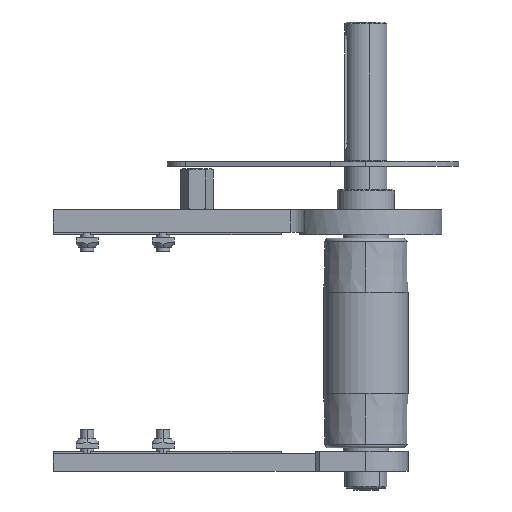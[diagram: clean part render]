
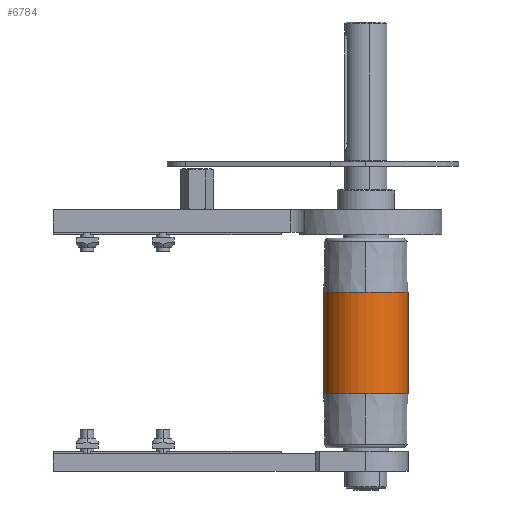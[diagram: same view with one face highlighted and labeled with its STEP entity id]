
A CAD part, front view. The second image highlights one B-rep face of the part: STEP entity #6784.
In plain terms, the highlighted cylindrical face has radius 25 mm (diameter 50 mm), a partial arc.
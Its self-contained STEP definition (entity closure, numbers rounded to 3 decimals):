
#630 = CARTESIAN_POINT ( 'NONE',  ( -25., 0., 30. ) ) ;
#667 = VECTOR ( 'NONE', #9824, 1000. ) ;
#712 = AXIS2_PLACEMENT_3D ( 'NONE', #11941, #8886, #14930 ) ;
#810 = CARTESIAN_POINT ( 'NONE',  ( 0., -25., 30. ) ) ;
#1588 = EDGE_LOOP ( 'NONE', ( #6610, #5626, #4180, #11662, #11616, #2194 ) ) ;
#1848 = CARTESIAN_POINT ( 'NONE',  ( 0., 0., 30. ) ) ;
#1934 = CARTESIAN_POINT ( 'NONE',  ( 0., -25., -30. ) ) ;
#2002 = LINE ( 'NONE', #15670, #15931 ) ;
#2194 = ORIENTED_EDGE ( 'NONE', *, *, #11890, .F. ) ;
#2218 = CYLINDRICAL_SURFACE ( 'NONE', #12473, 25. ) ;
#2889 = CARTESIAN_POINT ( 'NONE',  ( 0., 0., 30. ) ) ;
#3170 = VERTEX_POINT ( 'NONE', #810 ) ;
#3359 = EDGE_CURVE ( 'NONE', #13905, #12829, #8194, .T. ) ;
#3830 = CARTESIAN_POINT ( 'NONE',  ( -25., 0., 60. ) ) ;
#4180 = ORIENTED_EDGE ( 'NONE', *, *, #5994, .T. ) ;
#4954 = AXIS2_PLACEMENT_3D ( 'NONE', #2889, #16077, #5824 ) ;
#5626 = ORIENTED_EDGE ( 'NONE', *, *, #7539, .T. ) ;
#5824 = DIRECTION ( 'NONE',  ( 0., 1., 0. ) ) ;
#5994 = EDGE_CURVE ( 'NONE', #11130, #12829, #6809, .T. ) ;
#6056 = CIRCLE ( 'NONE', #712, 25. ) ;
#6428 = DIRECTION ( 'NONE',  ( 1., 0., 0. ) ) ;
#6594 = AXIS2_PLACEMENT_3D ( 'NONE', #1848, #18067, #9183 ) ;
#6610 = ORIENTED_EDGE ( 'NONE', *, *, #6703, .T. ) ;
#6703 = EDGE_CURVE ( 'NONE', #11925, #3170, #15904, .T. ) ;
#6784 = ADVANCED_FACE ( 'NONE', ( #17686 ), #2218, .T. ) ;
#6809 = LINE ( 'NONE', #3830, #667 ) ;
#7345 = DIRECTION ( 'NONE',  ( 0., 1., 0. ) ) ;
#7458 = DIRECTION ( 'NONE',  ( 0., 0., -1. ) ) ;
#7539 = EDGE_CURVE ( 'NONE', #3170, #11130, #7643, .T. ) ;
#7635 = EDGE_CURVE ( 'NONE', #16345, #13905, #6056, .T. ) ;
#7643 = CIRCLE ( 'NONE', #4954, 25. ) ;
#7753 = DIRECTION ( 'NONE',  ( 0., 0., -1. ) ) ;
#7839 = CARTESIAN_POINT ( 'NONE',  ( -25., 0., -30. ) ) ;
#8194 = CIRCLE ( 'NONE', #11667, 25. ) ;
#8886 = DIRECTION ( 'NONE',  ( 0., 0., -1. ) ) ;
#9183 = DIRECTION ( 'NONE',  ( 0., 1., 0. ) ) ;
#9824 = DIRECTION ( 'NONE',  ( 0., 0., -1. ) ) ;
#10228 = CARTESIAN_POINT ( 'NONE',  ( 0., 0., -30. ) ) ;
#11130 = VERTEX_POINT ( 'NONE', #630 ) ;
#11616 = ORIENTED_EDGE ( 'NONE', *, *, #7635, .F. ) ;
#11662 = ORIENTED_EDGE ( 'NONE', *, *, #3359, .F. ) ;
#11667 = AXIS2_PLACEMENT_3D ( 'NONE', #10228, #7458, #7345 ) ;
#11890 = EDGE_CURVE ( 'NONE', #11925, #16345, #2002, .T. ) ;
#11925 = VERTEX_POINT ( 'NONE', #12942 ) ;
#11941 = CARTESIAN_POINT ( 'NONE',  ( 0., 0., -30. ) ) ;
#12473 = AXIS2_PLACEMENT_3D ( 'NONE', #16477, #7753, #6428 ) ;
#12829 = VERTEX_POINT ( 'NONE', #7839 ) ;
#12942 = CARTESIAN_POINT ( 'NONE',  ( 25., 0., 30. ) ) ;
#13905 = VERTEX_POINT ( 'NONE', #1934 ) ;
#14930 = DIRECTION ( 'NONE',  ( 0., 1., 0. ) ) ;
#15670 = CARTESIAN_POINT ( 'NONE',  ( 25., 0., 60. ) ) ;
#15904 = CIRCLE ( 'NONE', #6594, 25. ) ;
#15931 = VECTOR ( 'NONE', #18511, 1000. ) ;
#16077 = DIRECTION ( 'NONE',  ( 0., 0., -1. ) ) ;
#16345 = VERTEX_POINT ( 'NONE', #17602 ) ;
#16477 = CARTESIAN_POINT ( 'NONE',  ( 0., 0., 60. ) ) ;
#17602 = CARTESIAN_POINT ( 'NONE',  ( 25., 0., -30. ) ) ;
#17686 = FACE_OUTER_BOUND ( 'NONE', #1588, .T. ) ;
#18067 = DIRECTION ( 'NONE',  ( 0., 0., -1. ) ) ;
#18511 = DIRECTION ( 'NONE',  ( 0., 0., -1. ) ) ;
